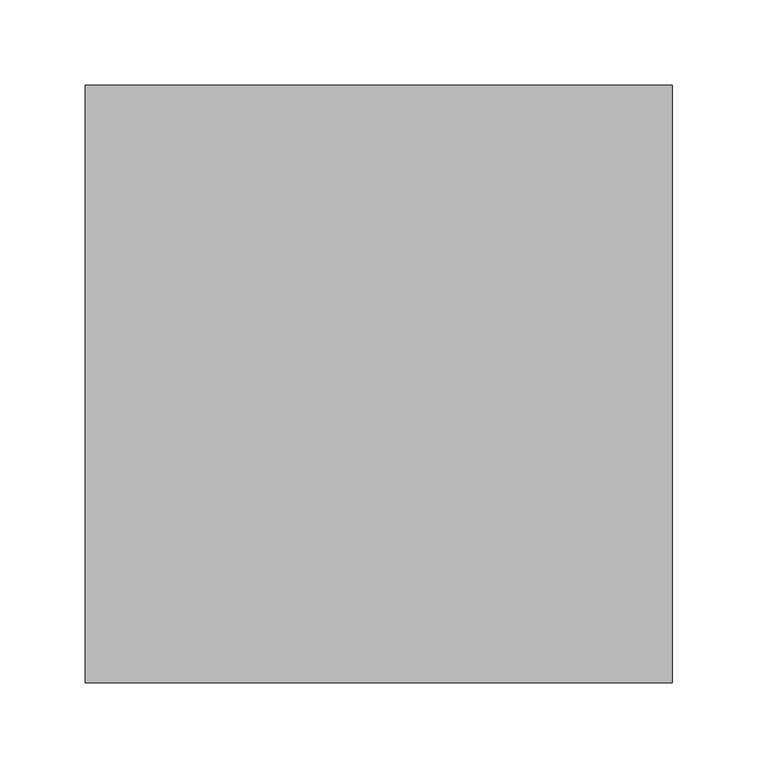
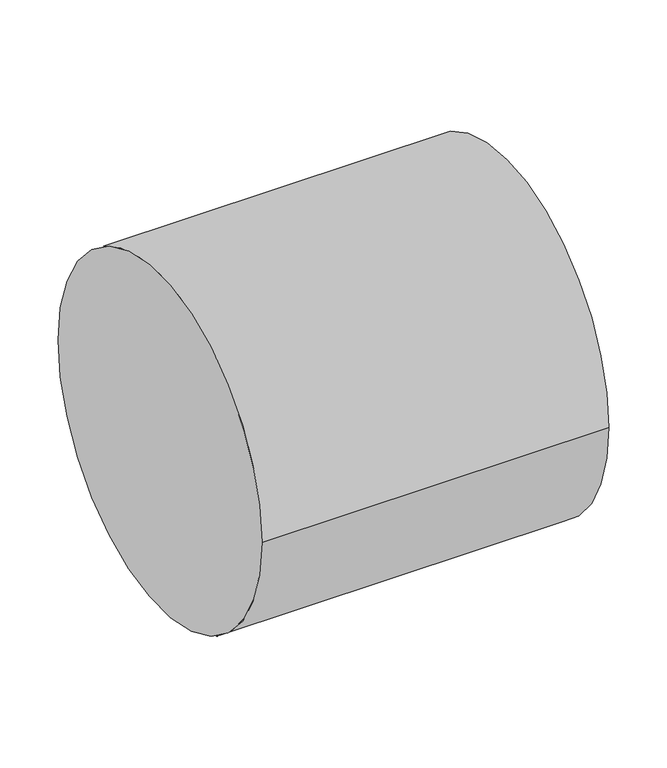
"""IFC4 building model written with IfcOpenShell, lengths in millimetres: pipe fitting geometry, 01051005 : Manguitos union."""

from ifc_helpers import new_model, si_unit, point, frame, origin, origin_2d, place, context, project, spatial, circle_curve, trimmed, segment, composite_curve, outline, extrude, source, transform, mapped, element, save


def pipe_fitting_29cbc75d(model_context):
    return source(origin(), model_context, "Body", "SweptSolid", [
        extrude(outline(composite_curve([segment(trimmed(circle_curve(origin_2d(), 175.0), [point((-175.0, 0.0))], [point((175.0, 0.0))], False, "CARTESIAN"), True, "CONTINUOUS"), segment(trimmed(circle_curve(origin_2d(), 175.0), [point((175.0, 0.0))], [point((-175.0, 0.0))], False, "CARTESIAN"), True, "CONTINUOUS")], self_intersect=False)), frame((-172.0, 0.0, 0.0), z_axis=(1.0, 0.0, 0.0), x_axis=(0.0, 1.0, 0.0)), (0.0, 0.0, 1.0), 344.0),
    ])


if __name__ == "__main__":
    model = new_model("IFC4")
    model_context = context("Model", 3, world=origin())
    ifc_project = project(units=[si_unit("LENGTHUNIT", "METRE", prefix="MILLI")], contexts=[model_context])
    site = spatial("IfcSite", under=ifc_project)
    building = spatial("IfcBuilding", under=site)
    placement = place(None, origin())
    pipe_fitting_shape = pipe_fitting_29cbc75d(model_context)
    element("IfcPipeFitting", 1, ObjectType="01051005 : Manguitos union", at=placement, inside=building, context=model_context, shape_type="MappedRepresentation", body=[
        mapped(pipe_fitting_shape, transform((0.0, 0.0, 0.0), x_axis=(1.0, 0.0, 0.0), y_axis=(0.0, 1.0, 0.0), z_axis=(0.0, 0.0, 1.0))),
    ])
    save(model, "model.ifc")
